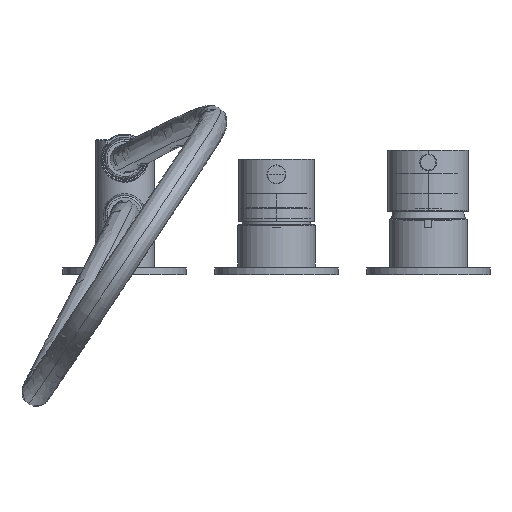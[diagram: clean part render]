
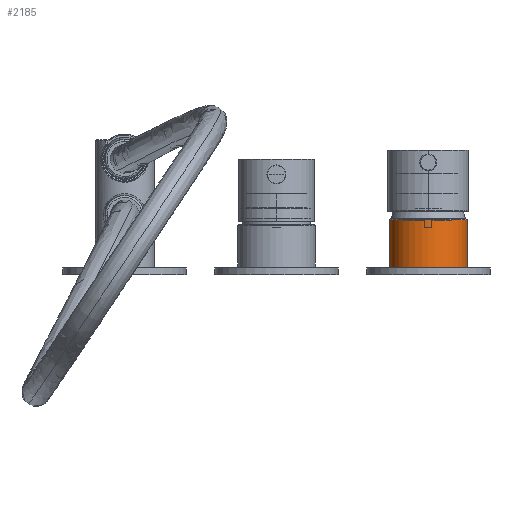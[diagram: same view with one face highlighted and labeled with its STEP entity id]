
A CAD part, front view. The second image highlights one B-rep face of the part: STEP entity #2185.
In plain terms, the highlighted cylindrical face has radius 20.5 mm (diameter 41 mm), a partial arc.
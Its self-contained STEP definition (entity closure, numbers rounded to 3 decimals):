
#797=CARTESIAN_POINT('',(80.,0.,14.));
#798=DIRECTION('',(0.,0.,1.));
#799=DIRECTION('',(-1.,0.,0.));
#800=AXIS2_PLACEMENT_3D('',#797,#798,#799);
#802=DIRECTION('',(0.,0.,1.));
#803=VECTOR('',#802,28.);
#804=CARTESIAN_POINT('',(59.5,0.,14.));
#805=LINE('',#804,#803);
#806=CARTESIAN_POINT('',(80.,0.,42.));
#807=DIRECTION('',(0.,0.,-1.));
#808=DIRECTION('',(1.,0.,0.));
#809=AXIS2_PLACEMENT_3D('',#806,#807,#808);
#811=DIRECTION('',(0.,0.,-1.));
#812=VECTOR('',#811,28.);
#813=CARTESIAN_POINT('',(100.5,0.,42.));
#814=LINE('',#813,#812);
#968=CARTESIAN_POINT('',(59.5,0.,42.));
#969=CARTESIAN_POINT('',(100.5,0.,42.));
#970=VERTEX_POINT('',#968);
#971=VERTEX_POINT('',#969);
#1086=CARTESIAN_POINT('',(59.5,0.,14.));
#1087=CARTESIAN_POINT('',(100.5,0.,14.));
#1088=VERTEX_POINT('',#1086);
#1089=VERTEX_POINT('',#1087);
#2173=CARTESIAN_POINT('',(80.,0.,-2.135));
#2174=DIRECTION('',(0.,0.,1.));
#2175=DIRECTION('',(1.,0.,0.));
#2176=AXIS2_PLACEMENT_3D('',#2173,#2174,#2175);
#2177=CYLINDRICAL_SURFACE('',#2176,20.5);
#2178=ORIENTED_EDGE('',*,*,#1836,.F.);
#2179=ORIENTED_EDGE('',*,*,#1813,.T.);
#2181=ORIENTED_EDGE('',*,*,#2180,.F.);
#2182=ORIENTED_EDGE('',*,*,#1810,.T.);
#2183=EDGE_LOOP('',(#2178,#2179,#2181,#2182));
#2184=FACE_OUTER_BOUND('',#2183,.F.);
#801=CIRCLE('',#800,20.5);
#810=CIRCLE('',#809,20.5);
#1810=EDGE_CURVE('',#971,#1089,#814,.T.);
#1813=EDGE_CURVE('',#1088,#970,#805,.T.);
#1836=EDGE_CURVE('',#1088,#1089,#801,.T.);
#2180=EDGE_CURVE('',#971,#970,#810,.T.);
#2185=ADVANCED_FACE('',(#2184),#2177,.T.);
